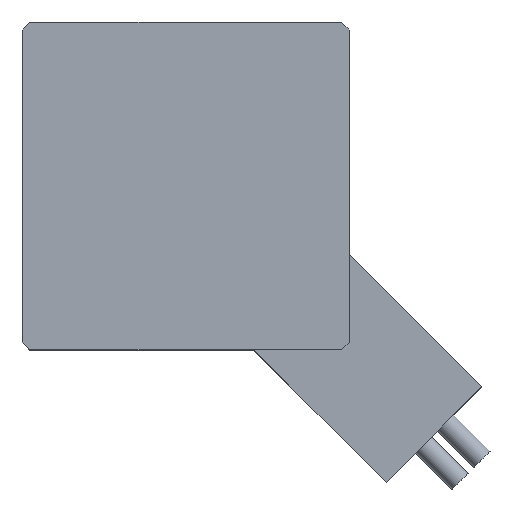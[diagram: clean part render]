
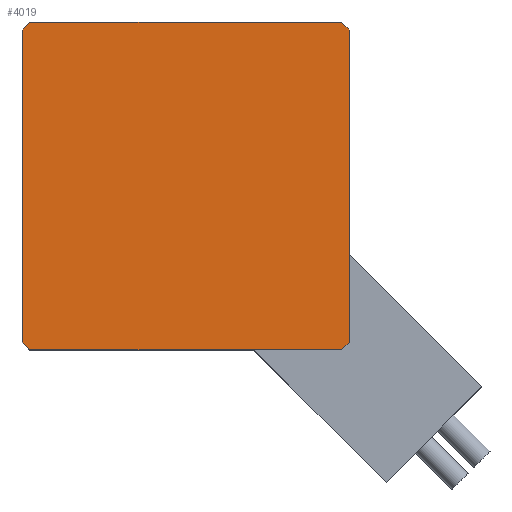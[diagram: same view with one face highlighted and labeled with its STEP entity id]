
A CAD part, top view. The second image highlights one B-rep face of the part: STEP entity #4019.
In plain terms, the highlighted planar face has unit normal (0, 0, 1).
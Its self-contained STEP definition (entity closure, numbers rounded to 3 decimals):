
#160=PLANE('',#4345);
#327=FACE_OUTER_BOUND('',#571,.T.);
#571=EDGE_LOOP('',(#3144,#3145,#3146,#3147,#3148,#3149,#3150,#3151));
#1134=LINE('',#9272,#1438);
#1137=LINE('',#9277,#1441);
#1139=LINE('',#9281,#1443);
#1146=LINE('',#9296,#1450);
#1149=LINE('',#9302,#1453);
#1151=LINE('',#9305,#1455);
#1152=LINE('',#9307,#1456);
#1153=LINE('',#9308,#1457);
#1438=VECTOR('',#4937,1000.);
#1441=VECTOR('',#4942,1000.);
#1443=VECTOR('',#4946,1000.);
#1450=VECTOR('',#4957,1000.);
#1453=VECTOR('',#4962,1000.);
#1455=VECTOR('',#4966,1000.);
#1456=VECTOR('',#4969,1000.);
#1457=VECTOR('',#4970,1000.);
#1783=VERTEX_POINT('',#9268);
#1784=VERTEX_POINT('',#9270);
#1785=VERTEX_POINT('',#9275);
#1786=VERTEX_POINT('',#9280);
#1791=VERTEX_POINT('',#9293);
#1792=VERTEX_POINT('',#9295);
#1793=VERTEX_POINT('',#9299);
#1794=VERTEX_POINT('',#9301);
#2260=EDGE_CURVE('',#1784,#1783,#1134,.T.);
#2263=EDGE_CURVE('',#1784,#1785,#1137,.T.);
#2265=EDGE_CURVE('',#1786,#1783,#1139,.T.);
#2272=EDGE_CURVE('',#1792,#1791,#1146,.T.);
#2275=EDGE_CURVE('',#1794,#1793,#1149,.T.);
#2277=EDGE_CURVE('',#1786,#1791,#1151,.T.);
#2278=EDGE_CURVE('',#1792,#1793,#1152,.T.);
#2279=EDGE_CURVE('',#1794,#1785,#1153,.T.);
#3144=ORIENTED_EDGE('',*,*,#2275,.T.);
#3145=ORIENTED_EDGE('',*,*,#2278,.F.);
#3146=ORIENTED_EDGE('',*,*,#2272,.T.);
#3147=ORIENTED_EDGE('',*,*,#2277,.F.);
#3148=ORIENTED_EDGE('',*,*,#2265,.T.);
#3149=ORIENTED_EDGE('',*,*,#2260,.F.);
#3150=ORIENTED_EDGE('',*,*,#2263,.T.);
#3151=ORIENTED_EDGE('',*,*,#2279,.F.);
#4019=ADVANCED_FACE('',(#327),#160,.T.);
#4345=AXIS2_PLACEMENT_3D('',#9306,#4967,#4968);
#4937=DIRECTION('',(-0.707,-0.707,0.));
#4942=DIRECTION('',(0.,1.,0.));
#4946=DIRECTION('',(1.,0.,0.));
#4957=DIRECTION('',(0.,-1.,0.));
#4962=DIRECTION('',(-1.,0.,0.));
#4966=DIRECTION('',(-0.707,0.707,0.));
#4967=DIRECTION('center_axis',(0.,0.,1.));
#4968=DIRECTION('ref_axis',(1.,0.,0.));
#4969=DIRECTION('',(0.707,0.707,0.));
#4970=DIRECTION('',(0.707,-0.707,0.));
#9268=CARTESIAN_POINT('',(8.1,-8.5,16.));
#9270=CARTESIAN_POINT('',(8.5,-8.1,16.));
#9272=CARTESIAN_POINT('',(8.3,-8.3,16.));
#9275=CARTESIAN_POINT('',(8.5,8.1,16.));
#9277=CARTESIAN_POINT('',(8.5,0.,16.));
#9280=CARTESIAN_POINT('',(-8.1,-8.5,16.));
#9281=CARTESIAN_POINT('',(0.,-8.5,16.));
#9293=CARTESIAN_POINT('',(-8.5,-8.1,16.));
#9295=CARTESIAN_POINT('',(-8.5,8.1,16.));
#9296=CARTESIAN_POINT('',(-8.5,0.,16.));
#9299=CARTESIAN_POINT('',(-8.1,8.5,16.));
#9301=CARTESIAN_POINT('',(8.1,8.5,16.));
#9302=CARTESIAN_POINT('',(0.,8.5,16.));
#9305=CARTESIAN_POINT('',(-8.3,-8.3,16.));
#9306=CARTESIAN_POINT('Origin',(0.,0.,16.));
#9307=CARTESIAN_POINT('',(-8.3,8.3,16.));
#9308=CARTESIAN_POINT('',(8.3,8.3,16.));
